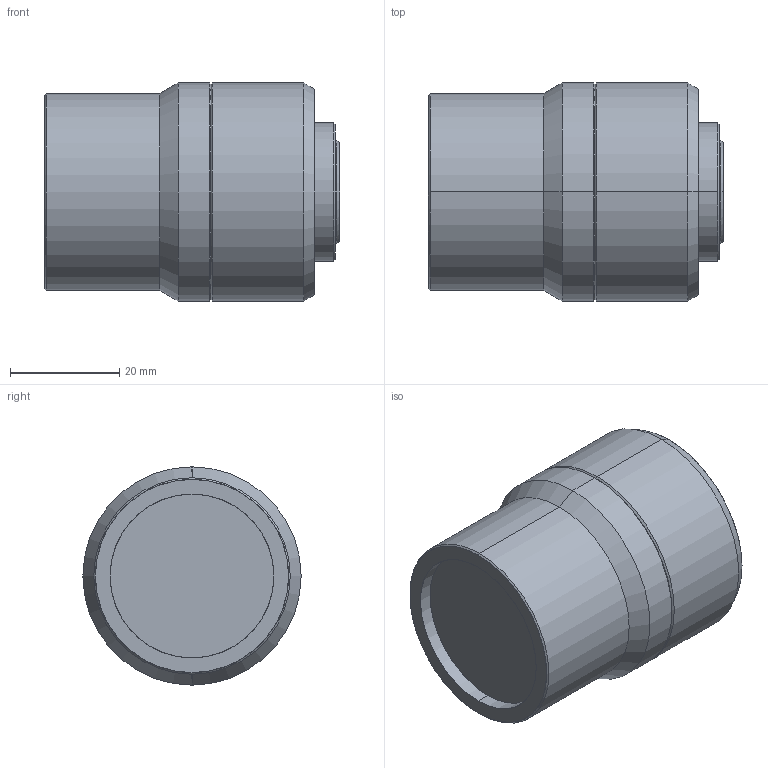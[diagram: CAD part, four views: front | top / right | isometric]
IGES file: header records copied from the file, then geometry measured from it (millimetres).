
Start section: SolidWorks IGES file using analytic representation for surfaces
Global section: file name: C:\Users\16255\Desktop\WWT230-0438-100.IGS; native system: SolidWorks 2017; preprocessor: SolidWorks 2017; author: 16255; date: 210713.101406; units: millimetre
Bounding box: 54.1 x 40 x 40 mm (x, y, z)
Surface area: 8728 mm2 (no closed solid volume)
Topology: 0 solids, 0 shells, 31 faces, 488 edges, 488 vertices
Faces by surface type: revolution 26, bspline 5
